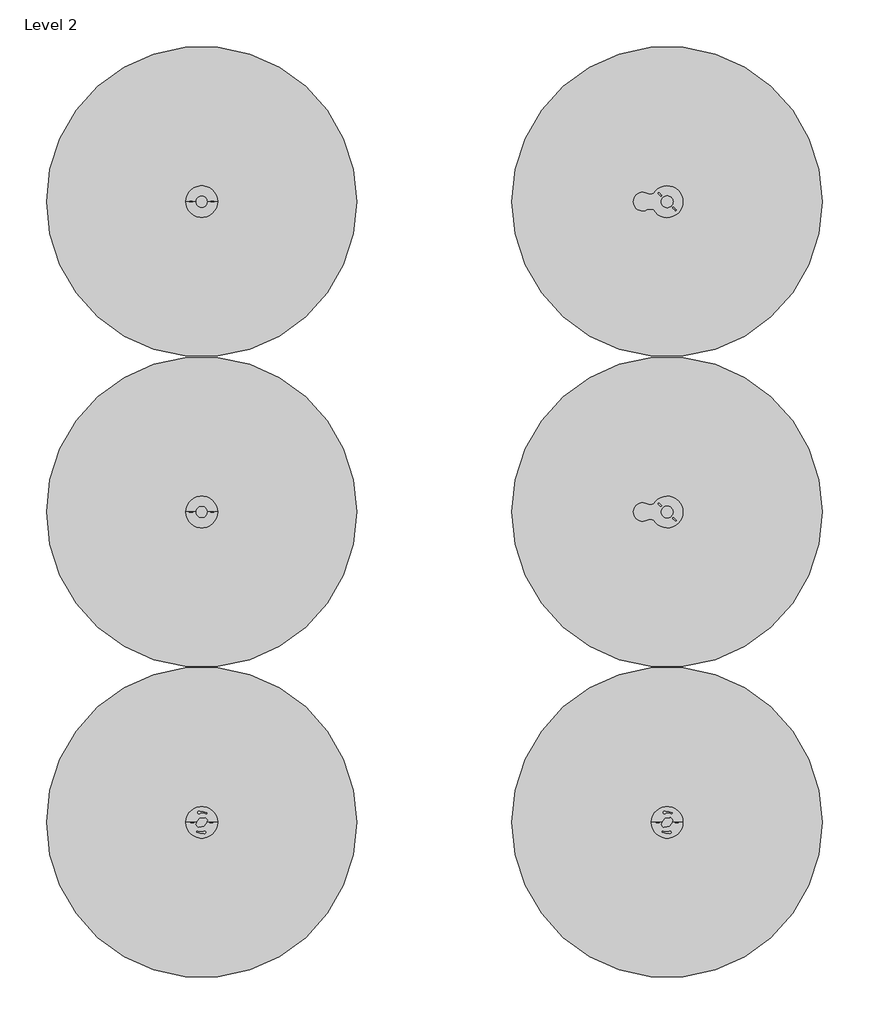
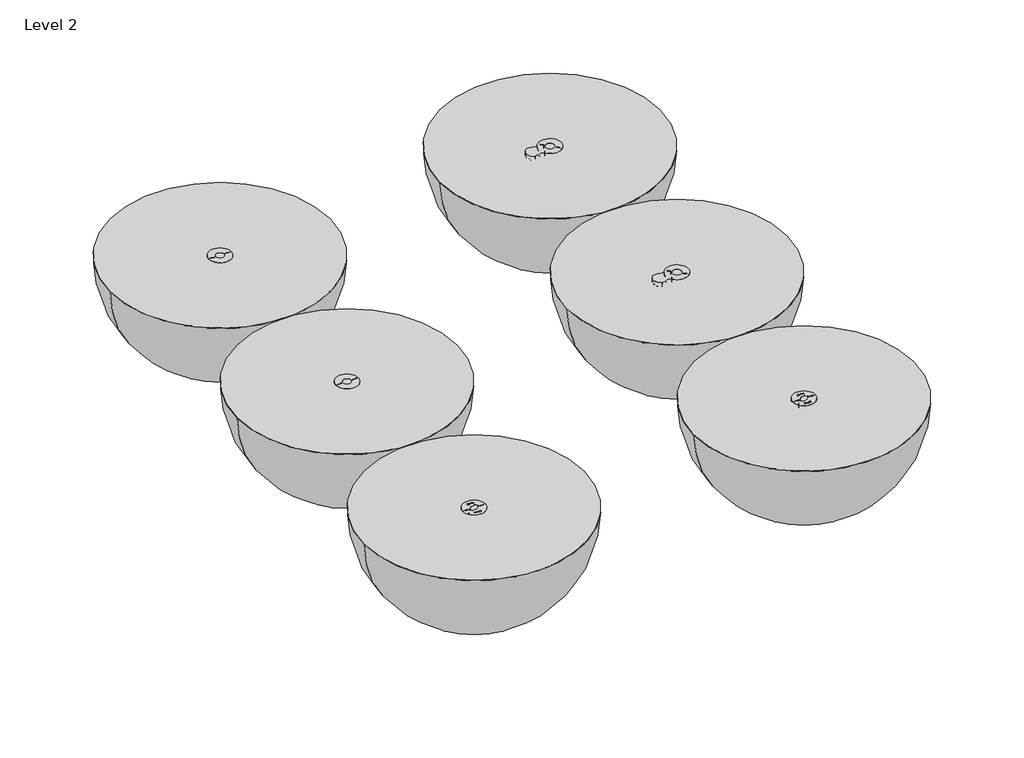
# One storey, incomplete: 6 alarms.
"""IFC4 building model written with IfcOpenShell, lengths in millimetres."""

from ifc_helpers import new_model, si_unit, origin, place, context, project, spatial, transform, mapped, element, save
from components import alarm_aebe6886, alarm_e853ffaf, alarm_875a3fe6, alarm_4400i_4412j_adf62544

model = new_model("IFC4")

# Units and contexts
model_context = context("Model", 3, world=origin())
ifc_project = project(units=[si_unit("LENGTHUNIT", "METRE", prefix="MILLI")], contexts=[model_context])

# Site, building, storey
site = spatial("IfcSite", under=ifc_project)
building = spatial("IfcBuilding", under=site)
storey = spatial("IfcBuildingStorey", under=building, Name="Level 2", Elevation=4000.0)

# Alarms
placement = place(None, origin())
alarm_shape = alarm_aebe6886(model_context)
element("IfcAlarm", 1, ObjectType="4400I_Analog Multi Detector : 4400I-B_4412F-B", at=placement, inside=storey, context=model_context, shape_type="MappedRepresentation", body=[
    mapped(alarm_shape, transform((-3522.5746592, 2247.8550077, 2600.0), x_axis=(1.0, 0.0, 0.0), y_axis=(0.0, -1.0, 0.0), z_axis=(0.0, 0.0, -1.0))),
])
alarm_2_shape = alarm_e853ffaf(model_context)
alarm_3_shape = alarm_875a3fe6(model_context)
element("IfcAlarm", 2, ObjectType="4400I_Analog Multi Detector : 4400I-B_4479-B", at=placement, inside=storey, context=model_context, shape_type="MappedRepresentation", body=[
    mapped(alarm_2_shape, transform((-2022.5746592, 2247.8550077, 2600.0), x_axis=(1.0, 0.0, 0.0), y_axis=(0.0, -1.0, 0.0), z_axis=(0.0, 0.0, -1.0))),
    mapped(alarm_3_shape, transform((-2022.5746592, 2247.8550077, 2600.0), x_axis=(1.0, 0.0, 0.0), y_axis=(0.0, -1.0, 0.0), z_axis=(0.0, 0.0, -1.0))),
])
element("IfcAlarm", 3, ObjectType="4400I_Analog Multi Detector : 4400I_4412F", at=placement, inside=storey, context=model_context, shape_type="MappedRepresentation", body=[
    mapped(alarm_shape, transform((-3522.5746592, 1247.8550077, 2600.0), x_axis=(1.0, 0.0, 0.0), y_axis=(0.0, -1.0, 0.0), z_axis=(0.0, 0.0, -1.0))),
])
alarm_4400i_4412j_shape = alarm_4400i_4412j_adf62544(model_context)
element("IfcAlarm", 4, ObjectType="4400I_Analog Multi Detector : 4400I_4412J", at=placement, inside=storey, context=model_context, shape_type="MappedRepresentation", body=[
    mapped(alarm_4400i_4412j_shape, transform((-3522.5746592, 247.8550077, 2600.0), x_axis=(1.0, 0.0, 0.0), y_axis=(0.0, -1.0, 0.0), z_axis=(0.0, 0.0, -1.0))),
])
element("IfcAlarm", 5, ObjectType="4400I_Analog Multi Detector : 4400I_4412S", at=placement, inside=storey, context=model_context, shape_type="MappedRepresentation", body=[
    mapped(alarm_4400i_4412j_shape, transform((-2022.5746592, 247.8550077, 2600.0), x_axis=(1.0, 0.0, 0.0), y_axis=(0.0, -1.0, 0.0), z_axis=(0.0, 0.0, -1.0))),
])
element("IfcAlarm", 6, ObjectType="4400I_Analog Multi Detector : 4400I_4479", at=placement, inside=storey, context=model_context, shape_type="MappedRepresentation", body=[
    mapped(alarm_2_shape, transform((-2022.5746592, 1247.8550077, 2600.0), x_axis=(1.0, 0.0, 0.0), y_axis=(0.0, -1.0, 0.0), z_axis=(0.0, 0.0, -1.0))),
    mapped(alarm_3_shape, transform((-2022.5746592, 1247.8550077, 2600.0), x_axis=(1.0, 0.0, 0.0), y_axis=(0.0, -1.0, 0.0), z_axis=(0.0, 0.0, -1.0))),
])

save(model, "model.ifc")
